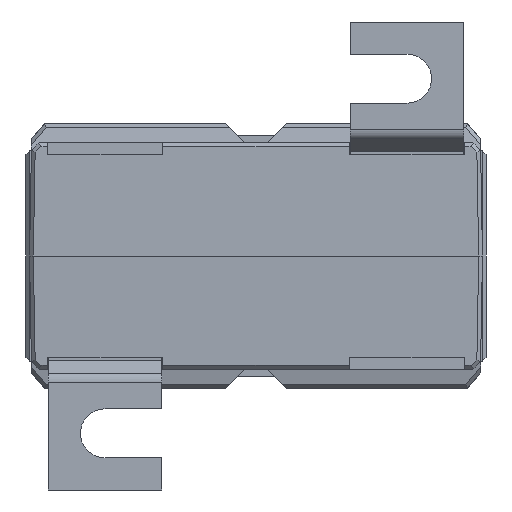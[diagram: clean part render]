
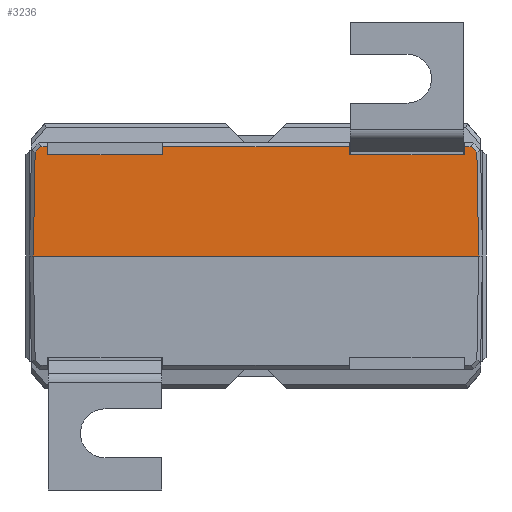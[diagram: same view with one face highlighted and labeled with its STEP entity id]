
A CAD part, front view. The second image highlights one B-rep face of the part: STEP entity #3236.
In plain terms, the highlighted planar face has unit normal (0, -1, 0.018).
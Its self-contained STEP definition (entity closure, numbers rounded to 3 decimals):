
#1410 = ORIENTED_EDGE ( 'NONE', *, *, #30720, .F. ) ;
#1412 = ORIENTED_EDGE ( 'NONE', *, *, #30676, .F. ) ;
#1414 = ORIENTED_EDGE ( 'NONE', *, *, #30853, .F. ) ;
#1416 = ORIENTED_EDGE ( 'NONE', *, *, #30716, .T. ) ;
#1418 = ORIENTED_EDGE ( 'NONE', *, *, #35555, .T. ) ;
#1421 = ORIENTED_EDGE ( 'NONE', *, *, #35471, .T. ) ;
#1423 = ORIENTED_EDGE ( 'NONE', *, *, #30769, .T. ) ;
#1425 = ORIENTED_EDGE ( 'NONE', *, *, #30832, .T. ) ;
#1427 = ORIENTED_EDGE ( 'NONE', *, *, #30862, .T. ) ;
#1429 = ORIENTED_EDGE ( 'NONE', *, *, #30770, .T. ) ;
#1432 = ORIENTED_EDGE ( 'NONE', *, *, #35572, .F. ) ;
#1433 = ORIENTED_EDGE ( 'NONE', *, *, #35549, .T. ) ;
#1435 = ORIENTED_EDGE ( 'NONE', *, *, #35470, .F. ) ;
#1437 = ORIENTED_EDGE ( 'NONE', *, *, #30658, .T. ) ;
#3236 = ADVANCED_FACE ( 'NONE', ( #5151 ), #22014, .T. ) ;
#5151 = FACE_OUTER_BOUND ( 'NONE', #39615, .T. ) ;
#5853 = LINE ( 'NONE', #15311, #5854 ) ;
#5854 = VECTOR ( 'NONE', #15312, 1000. ) ;
#5884 = LINE ( 'NONE', #15374, #5885 ) ;
#5885 = VECTOR ( 'NONE', #15375, 1000. ) ;
#5940 = LINE ( 'NONE', #15525, #5954 ) ;
#5947 = LINE ( 'NONE', #15518, #5948 ) ;
#5948 = VECTOR ( 'NONE', #15519, 1000. ) ;
#5954 = VECTOR ( 'NONE', #15529, 1000. ) ;
#6017 = LINE ( 'NONE', #15692, #6038 ) ;
#6038 = VECTOR ( 'NONE', #15702, 1000. ) ;
#6040 = LINE ( 'NONE', #15703, #6041 ) ;
#6041 = VECTOR ( 'NONE', #15704, 1000. ) ;
#6127 = LINE ( 'NONE', #15936, #6145 ) ;
#6145 = VECTOR ( 'NONE', #15937, 1000. ) ;
#6171 = LINE ( 'NONE', #16045, #6193 ) ;
#6177 = LINE ( 'NONE', #16024, #6178 ) ;
#6178 = VECTOR ( 'NONE', #16025, 1000. ) ;
#6193 = VECTOR ( 'NONE', #16052, 1000. ) ;
#6566 = AXIS2_PLACEMENT_3D ( 'NONE', #21869, #22019, #22020 ) ;
#14094 = CARTESIAN_POINT ( 'NONE',  ( -29.5, -31., 0. ) ) ;
#14100 = CARTESIAN_POINT ( 'NONE',  ( 29.5, -31., 0. ) ) ;
#14366 = CARTESIAN_POINT ( 'NONE',  ( 12.382, -30.747, 14.5 ) ) ;
#14367 = CARTESIAN_POINT ( 'NONE',  ( 12.392, -30.766, 13.4 ) ) ;
#14368 = CARTESIAN_POINT ( 'NONE',  ( 27.608, -30.766, 13.4 ) ) ;
#14369 = CARTESIAN_POINT ( 'NONE',  ( 27.618, -30.747, 14.5 ) ) ;
#14370 = CARTESIAN_POINT ( 'NONE',  ( 28.509, -30.747, 14.5 ) ) ;
#14371 = CARTESIAN_POINT ( 'NONE',  ( 29.259, -30.76, 13.775 ) ) ;
#14372 = CARTESIAN_POINT ( 'NONE',  ( -29.259, -30.76, 13.776 ) ) ;
#14373 = CARTESIAN_POINT ( 'NONE',  ( -28.509, -30.747, 14.5 ) ) ;
#14374 = CARTESIAN_POINT ( 'NONE',  ( -27.618, -30.747, 14.5 ) ) ;
#14375 = CARTESIAN_POINT ( 'NONE',  ( -27.608, -30.766, 13.4 ) ) ;
#14376 = CARTESIAN_POINT ( 'NONE',  ( -12.382, -30.747, 14.5 ) ) ;
#14377 = CARTESIAN_POINT ( 'NONE',  ( -12.392, -30.766, 13.4 ) ) ;
#15311 = CARTESIAN_POINT ( 'NONE',  ( -28.72, -30.747, 14.5 ) ) ;
#15312 = DIRECTION ( 'NONE',  ( -1., 0., 0. ) ) ;
#15374 = CARTESIAN_POINT ( 'NONE',  ( -30., -30.766, 13.4 ) ) ;
#15375 = DIRECTION ( 'NONE',  ( 1., 0., 0. ) ) ;
#15518 = CARTESIAN_POINT ( 'NONE',  ( -28.72, -30.747, 14.5 ) ) ;
#15519 = DIRECTION ( 'NONE',  ( -1., 0., 0. ) ) ;
#15525 = CARTESIAN_POINT ( 'NONE',  ( -12.51, -31.003, -0.153 ) ) ;
#15529 = DIRECTION ( 'NONE',  ( 0.009, 0.017, 1. ) ) ;
#15692 = CARTESIAN_POINT ( 'NONE',  ( -30., -31., 0. ) ) ;
#15702 = DIRECTION ( 'NONE',  ( 1., 0., 0. ) ) ;
#15703 = CARTESIAN_POINT ( 'NONE',  ( -28.72, -30.747, 14.5 ) ) ;
#15704 = DIRECTION ( 'NONE',  ( -1., 0., 0. ) ) ;
#15936 = CARTESIAN_POINT ( 'NONE',  ( 29.482, -30.982, 1.038 ) ) ;
#15937 = DIRECTION ( 'NONE',  ( -0.017, 0.017, 1. ) ) ;
#16024 = CARTESIAN_POINT ( 'NONE',  ( -27.491, -31., 0.022 ) ) ;
#16025 = DIRECTION ( 'NONE',  ( 0.009, -0.017, -1. ) ) ;
#16045 = CARTESIAN_POINT ( 'NONE',  ( 28.368, -30.745, 14.636 ) ) ;
#16052 = DIRECTION ( 'NONE',  ( -0.719, 0.012, 0.695 ) ) ;
#17653 = LINE ( 'NONE', #38870, #17664 ) ;
#17662 = LINE ( 'NONE', #38873, #17663 ) ;
#17663 = VECTOR ( 'NONE', #38874, 1000. ) ;
#17664 = VECTOR ( 'NONE', #38876, 1000. ) ;
#17794 = LINE ( 'NONE', #39186, #17795 ) ;
#17795 = VECTOR ( 'NONE', #39187, 1000. ) ;
#17798 = LINE ( 'NONE', #39233, #17800 ) ;
#17800 = VECTOR ( 'NONE', #39234, 1000. ) ;
#17831 = LINE ( 'NONE', #39286, #17832 ) ;
#17832 = VECTOR ( 'NONE', #39287, 1000. ) ;
#21102 = VERTEX_POINT ( 'NONE', #14094 ) ;
#21108 = VERTEX_POINT ( 'NONE', #14100 ) ;
#21601 = VERTEX_POINT ( 'NONE', #14366 ) ;
#21602 = VERTEX_POINT ( 'NONE', #14367 ) ;
#21603 = VERTEX_POINT ( 'NONE', #14368 ) ;
#21604 = VERTEX_POINT ( 'NONE', #14369 ) ;
#21605 = VERTEX_POINT ( 'NONE', #14370 ) ;
#21606 = VERTEX_POINT ( 'NONE', #14371 ) ;
#21607 = VERTEX_POINT ( 'NONE', #14372 ) ;
#21608 = VERTEX_POINT ( 'NONE', #14373 ) ;
#21609 = VERTEX_POINT ( 'NONE', #14374 ) ;
#21610 = VERTEX_POINT ( 'NONE', #14375 ) ;
#21611 = VERTEX_POINT ( 'NONE', #14376 ) ;
#21612 = VERTEX_POINT ( 'NONE', #14377 ) ;
#21869 = CARTESIAN_POINT ( 'NONE',  ( -30., -31., 0. ) ) ;
#22014 = PLANE ( 'NONE',  #6566 ) ;
#22019 = DIRECTION ( 'NONE',  ( 0., -1., 0.017 ) ) ;
#22020 = DIRECTION ( 'NONE',  ( 0., -0.017, -1. ) ) ;
#30658 = EDGE_CURVE ( 'NONE', #21601, #21611, #5853, .T. ) ;
#30676 = EDGE_CURVE ( 'NONE', #21610, #21612, #5884, .T. ) ;
#30716 = EDGE_CURVE ( 'NONE', #21609, #21608, #5947, .T. ) ;
#30720 = EDGE_CURVE ( 'NONE', #21612, #21611, #5940, .T. ) ;
#30769 = EDGE_CURVE ( 'NONE', #21102, #21108, #6017, .T. ) ;
#30770 = EDGE_CURVE ( 'NONE', #21605, #21604, #6040, .T. ) ;
#30832 = EDGE_CURVE ( 'NONE', #21108, #21606, #6127, .T. ) ;
#30853 = EDGE_CURVE ( 'NONE', #21609, #21610, #6177, .T. ) ;
#30862 = EDGE_CURVE ( 'NONE', #21606, #21605, #6171, .T. ) ;
#35470 = EDGE_CURVE ( 'NONE', #21601, #21602, #17662, .T. ) ;
#35471 = EDGE_CURVE ( 'NONE', #21607, #21102, #17653, .T. ) ;
#35549 = EDGE_CURVE ( 'NONE', #21603, #21602, #17794, .T. ) ;
#35555 = EDGE_CURVE ( 'NONE', #21608, #21607, #17798, .T. ) ;
#35572 = EDGE_CURVE ( 'NONE', #21603, #21604, #17831, .T. ) ;
#38870 = CARTESIAN_POINT ( 'NONE',  ( -29.5, -31., -0.009 ) ) ;
#38873 = CARTESIAN_POINT ( 'NONE',  ( 12.505, -30.994, 0.371 ) ) ;
#38874 = DIRECTION ( 'NONE',  ( 0.009, -0.017, -1. ) ) ;
#38876 = DIRECTION ( 'NONE',  ( -0.017, -0.017, -1. ) ) ;
#39186 = CARTESIAN_POINT ( 'NONE',  ( -30., -30.766, 13.4 ) ) ;
#39187 = DIRECTION ( 'NONE',  ( -1., 0., 0. ) ) ;
#39233 = CARTESIAN_POINT ( 'NONE',  ( -29.404, -30.762, 13.636 ) ) ;
#39234 = DIRECTION ( 'NONE',  ( -0.719, -0.012, -0.695 ) ) ;
#39286 = CARTESIAN_POINT ( 'NONE',  ( 27.487, -31.009, -0.502 ) ) ;
#39287 = DIRECTION ( 'NONE',  ( 0.009, 0.017, 1. ) ) ;
#39615 = EDGE_LOOP ( 'NONE', ( #1410, #1412, #1414, #1416, #1418, #1421, #1423, #1425, #1427, #1429, #1432, #1433, #1435, #1437 ) ) ;
